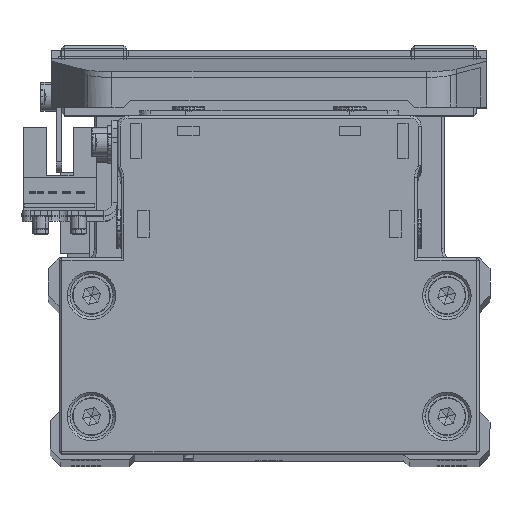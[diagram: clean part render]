
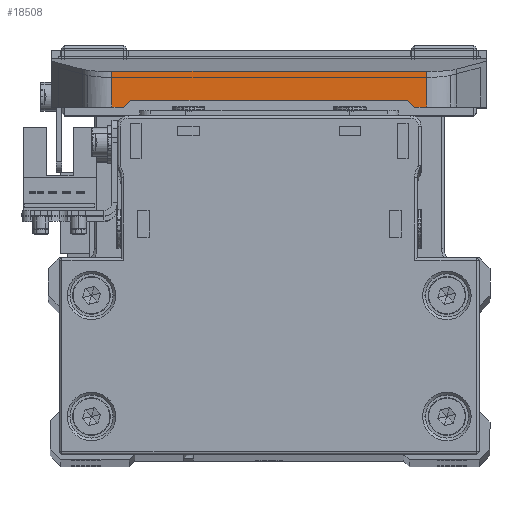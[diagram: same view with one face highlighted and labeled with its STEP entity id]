
A CAD part, top view. The second image highlights one B-rep face of the part: STEP entity #18508.
In plain terms, the highlighted planar face has unit normal (0, 0, 1) as drawn and (-1, 0, 0) by its records, which use the part's own axes.
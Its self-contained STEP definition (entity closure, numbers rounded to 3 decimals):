
#462 = LINE ( 'NONE', #12474, #37167 ) ;
#2263 = LINE ( 'NONE', #14276, #14811 ) ;
#3353 = VERTEX_POINT ( 'NONE', #27659 ) ;
#3425 = VECTOR ( 'NONE', #11636, 1000. ) ;
#3756 = CARTESIAN_POINT ( 'NONE',  ( -67.5, 9.3, -25.5 ) ) ;
#3773 = EDGE_CURVE ( 'NONE', #35032, #3353, #462, .T. ) ;
#5888 = CARTESIAN_POINT ( 'NONE',  ( -67.5, 10.6, -27. ) ) ;
#6302 = CARTESIAN_POINT ( 'NONE',  ( -67.5, 10.6, 29.225 ) ) ;
#6381 = ORIENTED_EDGE ( 'NONE', *, *, #29453, .F. ) ;
#7894 = VERTEX_POINT ( 'NONE', #34718 ) ;
#8194 = CARTESIAN_POINT ( 'NONE',  ( -67.5, 4., 29.225 ) ) ;
#8416 = EDGE_LOOP ( 'NONE', ( #30631, #11685, #11311, #35333, #6381, #32390, #24184, #34747 ) ) ;
#8977 = DIRECTION ( 'NONE',  ( 0., 0., -1. ) ) ;
#10137 = AXIS2_PLACEMENT_3D ( 'NONE', #38268, #11324, #23324 ) ;
#10179 = DIRECTION ( 'NONE',  ( 0., 0., -1. ) ) ;
#11174 = EDGE_CURVE ( 'NONE', #20909, #16895, #33269, .T. ) ;
#11311 = ORIENTED_EDGE ( 'NONE', *, *, #12407, .T. ) ;
#11324 = DIRECTION ( 'NONE',  ( 1., 0., 0. ) ) ;
#11636 = DIRECTION ( 'NONE',  ( 0., 0., -1. ) ) ;
#11685 = ORIENTED_EDGE ( 'NONE', *, *, #36548, .T. ) ;
#12407 = EDGE_CURVE ( 'NONE', #34096, #35032, #26575, .T. ) ;
#12474 = CARTESIAN_POINT ( 'NONE',  ( -67.5, 4., -29.225 ) ) ;
#12567 = EDGE_CURVE ( 'NONE', #23958, #36231, #25123, .T. ) ;
#13090 = LINE ( 'NONE', #25066, #26982 ) ;
#13505 = CARTESIAN_POINT ( 'NONE',  ( -67.5, 10.6, -27. ) ) ;
#14276 = CARTESIAN_POINT ( 'NONE',  ( -67.5, 10.6, 27. ) ) ;
#14282 = FACE_OUTER_BOUND ( 'NONE', #8416, .T. ) ;
#14811 = VECTOR ( 'NONE', #26264, 1000. ) ;
#16268 = CARTESIAN_POINT ( 'NONE',  ( -67.5, 9.3, 25.5 ) ) ;
#16895 = VERTEX_POINT ( 'NONE', #29450 ) ;
#17918 = DIRECTION ( 'NONE',  ( 0., 0.655, -0.756 ) ) ;
#18330 = DIRECTION ( 'NONE',  ( 0., 1., 0. ) ) ;
#18508 = ADVANCED_FACE ( 'NONE', ( #14282 ), #26270, .F. ) ;
#19426 = VECTOR ( 'NONE', #17918, 1000. ) ;
#19789 = VECTOR ( 'NONE', #10179, 1000. ) ;
#20909 = VERTEX_POINT ( 'NONE', #8194 ) ;
#23324 = DIRECTION ( 'NONE',  ( 0., 0., -1. ) ) ;
#23913 = LINE ( 'NONE', #35928, #26677 ) ;
#23958 = VERTEX_POINT ( 'NONE', #16268 ) ;
#24074 = VECTOR ( 'NONE', #18330, 1000. ) ;
#24184 = ORIENTED_EDGE ( 'NONE', *, *, #31827, .T. ) ;
#24470 = DIRECTION ( 'NONE',  ( 0., -1., 0. ) ) ;
#25066 = CARTESIAN_POINT ( 'NONE',  ( -67.5, 4., 40.4 ) ) ;
#25123 = LINE ( 'NONE', #37122, #19789 ) ;
#26264 = DIRECTION ( 'NONE',  ( 0., -0.655, -0.756 ) ) ;
#26270 = PLANE ( 'NONE',  #10137 ) ;
#26575 = LINE ( 'NONE', #38579, #3425 ) ;
#26677 = VECTOR ( 'NONE', #8977, 1000. ) ;
#26982 = VECTOR ( 'NONE', #37066, 1000. ) ;
#27659 = CARTESIAN_POINT ( 'NONE',  ( -67.5, 4., -29.225 ) ) ;
#28744 = CARTESIAN_POINT ( 'NONE',  ( -67.5, 10.6, -29.225 ) ) ;
#29450 = CARTESIAN_POINT ( 'NONE',  ( -67.5, 10.6, 29.225 ) ) ;
#29453 = EDGE_CURVE ( 'NONE', #20909, #3353, #13090, .T. ) ;
#30631 = ORIENTED_EDGE ( 'NONE', *, *, #12567, .T. ) ;
#31827 = EDGE_CURVE ( 'NONE', #16895, #7894, #23913, .T. ) ;
#32390 = ORIENTED_EDGE ( 'NONE', *, *, #11174, .T. ) ;
#32851 = LINE ( 'NONE', #5888, #19426 ) ;
#33269 = LINE ( 'NONE', #6302, #24074 ) ;
#34096 = VERTEX_POINT ( 'NONE', #13505 ) ;
#34253 = EDGE_CURVE ( 'NONE', #7894, #23958, #2263, .T. ) ;
#34718 = CARTESIAN_POINT ( 'NONE',  ( -67.5, 10.6, 27. ) ) ;
#34747 = ORIENTED_EDGE ( 'NONE', *, *, #34253, .T. ) ;
#35032 = VERTEX_POINT ( 'NONE', #28744 ) ;
#35333 = ORIENTED_EDGE ( 'NONE', *, *, #3773, .T. ) ;
#35928 = CARTESIAN_POINT ( 'NONE',  ( -67.5, 10.6, 40.4 ) ) ;
#36231 = VERTEX_POINT ( 'NONE', #3756 ) ;
#36548 = EDGE_CURVE ( 'NONE', #36231, #34096, #32851, .T. ) ;
#37066 = DIRECTION ( 'NONE',  ( 0., 0., -1. ) ) ;
#37122 = CARTESIAN_POINT ( 'NONE',  ( -67.5, 9.3, 25.5 ) ) ;
#37167 = VECTOR ( 'NONE', #24470, 1000. ) ;
#38268 = CARTESIAN_POINT ( 'NONE',  ( -67.5, 10.6, 40.4 ) ) ;
#38579 = CARTESIAN_POINT ( 'NONE',  ( -67.5, 10.6, 40.4 ) ) ;
